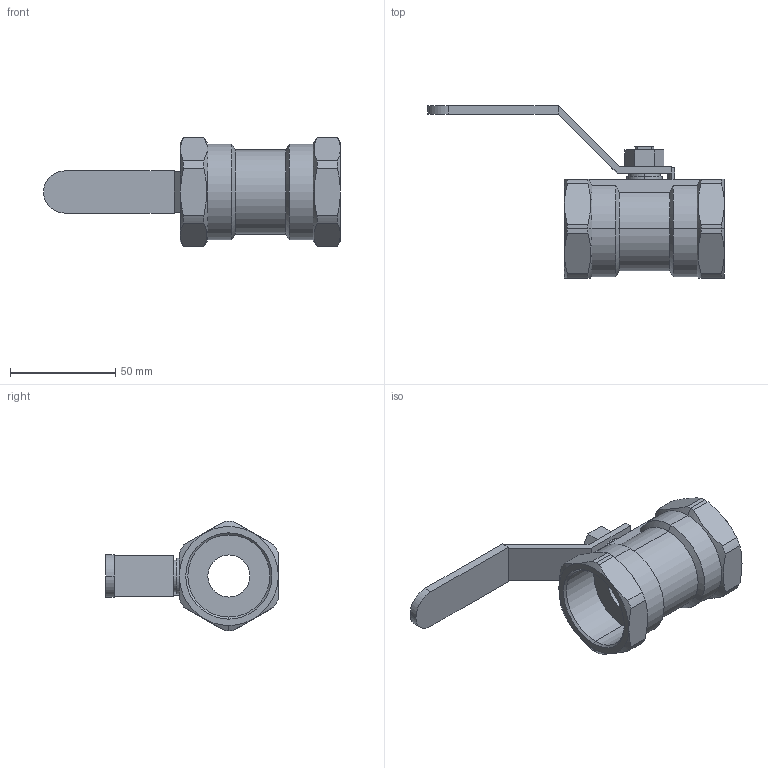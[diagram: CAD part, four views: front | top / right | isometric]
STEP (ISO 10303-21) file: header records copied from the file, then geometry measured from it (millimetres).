
FILE_DESCRIPTION (( 'STEP AP203' ), '1' );
FILE_NAME ('A3.622I032XFVPB0.STEP', '2018-11-06T10:05:51', ( '' ), ( '' ), 'SwSTEP 2.0', 'SolidWorks 2014', '' );
FILE_SCHEMA (( 'CONFIG_CONTROL_DESIGN' ));
Length unit declared in the file: millimetre
Products named in the file (1): A3.622I032XFVPB0
Bounding box: 141 x 82 x 52 mm (x, y, z)
Volume: 76165.4 mm3; surface area: 27962.1 mm2
Topology: 1 solids, 1 shells, 116 faces, 288 edges, 181 vertices
Faces by surface type: plane 46, cylinder 40, cone 30
Entity records: 3720 total; most frequent: CARTESIAN_POINT 891, DIRECTION 576, ORIENTED_EDGE 576, EDGE_CURVE 288, AXIS2_PLACEMENT_3D 218, VERTEX_POINT 181, LINE 140, VECTOR 140
